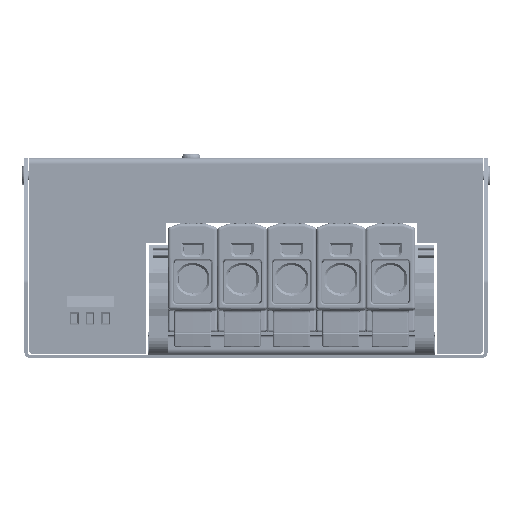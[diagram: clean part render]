
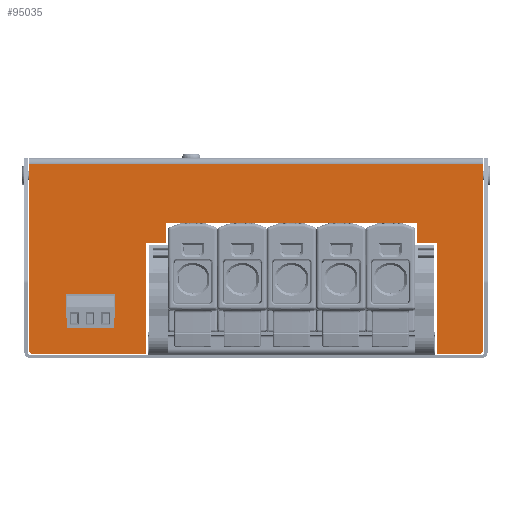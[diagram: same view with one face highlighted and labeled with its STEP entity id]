
A CAD part, left-side view. The second image highlights one B-rep face of the part: STEP entity #95035.
In plain terms, the highlighted planar face has unit normal (-1, 0, 0).
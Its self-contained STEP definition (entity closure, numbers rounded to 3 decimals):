
#7728=FACE_BOUND('',#18459,.T.);
#8039=PLANE('',#101194);
#11934=FACE_OUTER_BOUND('',#18458,.T.);
#18458=EDGE_LOOP('',(#69156,#69157,#69158,#69159,#69160,#69161,#69162,#69163,
#69164,#69165,#69166,#69167,#69168,#69169));
#18459=EDGE_LOOP('',(#69170,#69171,#69172,#69173));
#23317=LINE('',#135264,#32874);
#23320=LINE('',#135270,#32877);
#23323=LINE('',#135276,#32880);
#23326=LINE('',#135280,#32883);
#23506=LINE('',#136351,#33063);
#23520=LINE('',#136384,#33077);
#23523=LINE('',#136390,#33080);
#23526=LINE('',#136395,#33083);
#23528=LINE('',#136400,#33085);
#23531=LINE('',#136405,#33088);
#23532=LINE('',#136407,#33089);
#23547=LINE('',#136437,#33104);
#23548=LINE('',#136439,#33105);
#23550=LINE('',#136443,#33107);
#23551=LINE('',#136445,#33108);
#23558=LINE('',#136466,#33115);
#32874=VECTOR('',#109861,15.9);
#32877=VECTOR('',#109866,7.6);
#32880=VECTOR('',#109871,15.9);
#32883=VECTOR('',#109876,7.6);
#33063=VECTOR('',#111046,60.5);
#33077=VECTOR('',#111070,60.5);
#33080=VECTOR('',#111075,6.5);
#33083=VECTOR('',#111080,6.5);
#33085=VECTOR('',#111084,6.5);
#33088=VECTOR('',#111089,6.5);
#33089=VECTOR('',#111092,81.);
#33104=VECTOR('',#111123,36.);
#33105=VECTOR('',#111126,14.);
#33107=VECTOR('',#111130,37.);
#33108=VECTOR('',#111133,36.);
#33115=VECTOR('',#111164,147.);
#43286=CIRCLE('',#101153,1.);
#43288=CIRCLE('',#101158,1.);
#45245=VERTEX_POINT('',#135261);
#45246=VERTEX_POINT('',#135263);
#45248=VERTEX_POINT('',#135269);
#45250=VERTEX_POINT('',#135275);
#45643=VERTEX_POINT('',#136341);
#45644=VERTEX_POINT('',#136343);
#45646=VERTEX_POINT('',#136349);
#45658=VERTEX_POINT('',#136377);
#45659=VERTEX_POINT('',#136379);
#45660=VERTEX_POINT('',#136383);
#45661=VERTEX_POINT('',#136387);
#45662=VERTEX_POINT('',#136389);
#45663=VERTEX_POINT('',#136393);
#45664=VERTEX_POINT('',#136397);
#45665=VERTEX_POINT('',#136399);
#45666=VERTEX_POINT('',#136403);
#45673=VERTEX_POINT('',#136435);
#45674=VERTEX_POINT('',#136441);
#54059=EDGE_CURVE('',#45246,#45245,#23317,.T.);
#54062=EDGE_CURVE('',#45248,#45246,#23320,.T.);
#54065=EDGE_CURVE('',#45250,#45248,#23323,.T.);
#54068=EDGE_CURVE('',#45245,#45250,#23326,.T.);
#54532=EDGE_CURVE('',#45643,#45644,#43286,.T.);
#54536=EDGE_CURVE('',#45646,#45643,#23506,.T.);
#54550=EDGE_CURVE('',#45658,#45659,#43288,.T.);
#54552=EDGE_CURVE('',#45659,#45660,#23520,.T.);
#54555=EDGE_CURVE('',#45662,#45661,#23523,.T.);
#54558=EDGE_CURVE('',#45661,#45663,#23526,.T.);
#54560=EDGE_CURVE('',#45665,#45664,#23528,.T.);
#54563=EDGE_CURVE('',#45664,#45666,#23531,.T.);
#54564=EDGE_CURVE('',#45662,#45666,#23532,.T.);
#54579=EDGE_CURVE('',#45663,#45673,#23547,.T.);
#54580=EDGE_CURVE('',#45673,#45644,#23548,.T.);
#54582=EDGE_CURVE('',#45658,#45674,#23550,.T.);
#54583=EDGE_CURVE('',#45674,#45665,#23551,.T.);
#54594=EDGE_CURVE('',#45646,#45660,#23558,.T.);
#69156=ORIENTED_EDGE('',*,*,#54532,.F.);
#69157=ORIENTED_EDGE('',*,*,#54536,.F.);
#69158=ORIENTED_EDGE('',*,*,#54594,.T.);
#69159=ORIENTED_EDGE('',*,*,#54552,.F.);
#69160=ORIENTED_EDGE('',*,*,#54550,.F.);
#69161=ORIENTED_EDGE('',*,*,#54582,.T.);
#69162=ORIENTED_EDGE('',*,*,#54583,.T.);
#69163=ORIENTED_EDGE('',*,*,#54560,.T.);
#69164=ORIENTED_EDGE('',*,*,#54563,.T.);
#69165=ORIENTED_EDGE('',*,*,#54564,.F.);
#69166=ORIENTED_EDGE('',*,*,#54555,.T.);
#69167=ORIENTED_EDGE('',*,*,#54558,.T.);
#69168=ORIENTED_EDGE('',*,*,#54579,.T.);
#69169=ORIENTED_EDGE('',*,*,#54580,.T.);
#69170=ORIENTED_EDGE('',*,*,#54059,.T.);
#69171=ORIENTED_EDGE('',*,*,#54068,.T.);
#69172=ORIENTED_EDGE('',*,*,#54065,.T.);
#69173=ORIENTED_EDGE('',*,*,#54062,.T.);
#95035=ADVANCED_FACE('',(#11934,#7728),#8039,.T.);
#101153=AXIS2_PLACEMENT_3D('',#136344,#111039,#111040);
#101158=AXIS2_PLACEMENT_3D('',#136380,#111065,#111066);
#101194=AXIS2_PLACEMENT_3D('',#136473,#111177,#111178);
#109861=DIRECTION('',(0.,-1.,0.));
#109866=DIRECTION('',(0.,0.,1.));
#109871=DIRECTION('',(0.,1.,0.));
#109876=DIRECTION('',(0.,0.,-1.));
#111039=DIRECTION('center_axis',(1.,0.,0.));
#111040=DIRECTION('ref_axis',(0.,-0.707,-0.707));
#111046=DIRECTION('',(0.,0.,-1.));
#111065=DIRECTION('center_axis',(1.,0.,0.));
#111066=DIRECTION('ref_axis',(0.,0.707,-0.707));
#111070=DIRECTION('',(0.,0.,1.));
#111075=DIRECTION('',(0.,0.,-1.));
#111080=DIRECTION('',(0.,-1.,0.));
#111084=DIRECTION('',(0.,-1.,0.));
#111089=DIRECTION('',(0.,0.,1.));
#111092=DIRECTION('',(0.,1.,0.));
#111123=DIRECTION('',(0.,0.,-1.));
#111126=DIRECTION('',(0.,-1.,0.));
#111130=DIRECTION('',(0.,-1.,0.));
#111133=DIRECTION('',(0.,0.,1.));
#111164=DIRECTION('',(0.,1.,0.));
#111177=DIRECTION('center_axis',(-1.,0.,0.));
#111178=DIRECTION('ref_axis',(0.,0.,
1.));
#135261=CARTESIAN_POINT('',(-98.,45.8,-43.3));
#135263=CARTESIAN_POINT('',(-98.,61.7,-43.3));
#135264=CARTESIAN_POINT('',(-98.,30.85,-43.3));
#135269=CARTESIAN_POINT('',(-98.,61.7,-50.9));
#135270=CARTESIAN_POINT('',(-98.,61.7,-30.135));
#135275=CARTESIAN_POINT('',(-98.,45.8,-50.9));
#135276=CARTESIAN_POINT('',(-98.,22.9,-50.9));
#135280=CARTESIAN_POINT('',(-98.,45.8,-26.335));
#136341=CARTESIAN_POINT('',(-98.,-73.5,-61.5));
#136343=CARTESIAN_POINT('',(-98.,-72.5,-62.5));
#136344=CARTESIAN_POINT('Origin',(-98.,-72.5,-61.5));
#136349=CARTESIAN_POINT('',(-98.,-73.5,-1.));
#136351=CARTESIAN_POINT('',(-98.,-73.5,-1.));
#136377=CARTESIAN_POINT('',(-98.,72.5,-62.5));
#136379=CARTESIAN_POINT('',(-98.,73.5,-61.5));
#136380=CARTESIAN_POINT('Origin',(-98.,72.5,-61.5));
#136383=CARTESIAN_POINT('',(-98.,73.5,-1.));
#136384=CARTESIAN_POINT('',(-98.,73.5,3.524));
#136387=CARTESIAN_POINT('',(-98.,-52.,-26.5));
#136389=CARTESIAN_POINT('',(-98.,-52.,-20.));
#136390=CARTESIAN_POINT('',(-98.,-52.,-20.));
#136393=CARTESIAN_POINT('',(-98.,-58.5,-26.5));
#136395=CARTESIAN_POINT('',(-98.,-52.,-26.5));
#136397=CARTESIAN_POINT('',(-98.,29.,-26.5));
#136399=CARTESIAN_POINT('',(-98.,35.5,-26.5));
#136400=CARTESIAN_POINT('',(-98.,35.5,-26.5));
#136403=CARTESIAN_POINT('',(-98.,29.,-20.));
#136405=CARTESIAN_POINT('',(-98.,29.,-26.5));
#136407=CARTESIAN_POINT('',(-98.,-73.5,-20.));
#136435=CARTESIAN_POINT('',(-98.,-58.5,-62.5));
#136437=CARTESIAN_POINT('',(-98.,-58.5,-20.));
#136439=CARTESIAN_POINT('',(-98.,-58.5,-62.5));
#136441=CARTESIAN_POINT('',(-98.,35.5,-62.5));
#136443=CARTESIAN_POINT('',(-98.,73.5,-62.5));
#136445=CARTESIAN_POINT('',(-98.,35.5,-62.5));
#136466=CARTESIAN_POINT('',(-98.,0.,-1.));
#136473=CARTESIAN_POINT('Origin',(-98.,0.,-9.369));
